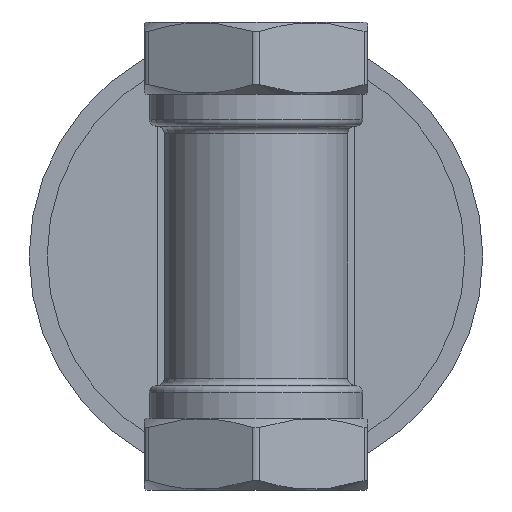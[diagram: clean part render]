
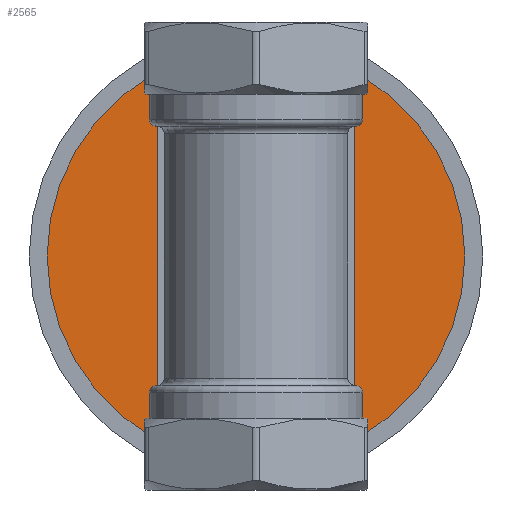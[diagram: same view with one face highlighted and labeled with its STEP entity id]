
A CAD part, front view. The second image highlights one B-rep face of the part: STEP entity #2565.
In plain terms, the highlighted planar face has unit normal (0, -1, 0).
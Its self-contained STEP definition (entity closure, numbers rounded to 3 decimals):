
#2565=ADVANCED_FACE('',(#14940,#14942),#14944,.F.);
#14940=FACE_BOUND('',#14941,.T.);
#14941=EDGE_LOOP('',(#19259));
#14942=FACE_BOUND('',#14943,.T.);
#14943=EDGE_LOOP('',(#19260,#19261,#19262,#19263,#19264,#19265,#19266,#19267,#19268,
#19269,#19270,#19271));
#14944=PLANE('',#14945);
#14945=AXIS2_PLACEMENT_3D('',#14946,#14947,#14948);
#14946=CARTESIAN_POINT('',(0.,33.9,0.));
#14947=DIRECTION('',(0.,1.,0.));
#14948=DIRECTION('',(0.,0.,1.));
#19259=ORIENTED_EDGE('',*,*,#22707,.F.);
#19260=ORIENTED_EDGE('',*,*,#22708,.T.);
#19261=ORIENTED_EDGE('',*,*,#22709,.T.);
#19262=ORIENTED_EDGE('',*,*,#22710,.T.);
#19263=ORIENTED_EDGE('',*,*,#22711,.T.);
#19264=ORIENTED_EDGE('',*,*,#22712,.T.);
#19265=ORIENTED_EDGE('',*,*,#22713,.T.);
#19266=ORIENTED_EDGE('',*,*,#22714,.T.);
#19267=ORIENTED_EDGE('',*,*,#22715,.T.);
#19268=ORIENTED_EDGE('',*,*,#22716,.T.);
#19269=ORIENTED_EDGE('',*,*,#22717,.T.);
#19270=ORIENTED_EDGE('',*,*,#22718,.T.);
#19271=ORIENTED_EDGE('',*,*,#22719,.T.);
#22707=EDGE_CURVE('',#24922,#24922,#24923,.T.);
#22708=EDGE_CURVE('',#24924,#24925,#24926,.F.);
#22709=EDGE_CURVE('',#24925,#24927,#24928,.T.);
#22710=EDGE_CURVE('',#24927,#24929,#24930,.F.);
#22711=EDGE_CURVE('',#24929,#24931,#24932,.T.);
#22712=EDGE_CURVE('',#24931,#24933,#24934,.F.);
#22713=EDGE_CURVE('',#24933,#24935,#24936,.T.);
#22714=EDGE_CURVE('',#24935,#24937,#24938,.F.);
#22715=EDGE_CURVE('',#24937,#24939,#24940,.T.);
#22716=EDGE_CURVE('',#24939,#24941,#24942,.F.);
#22717=EDGE_CURVE('',#24941,#24943,#24944,.T.);
#22718=EDGE_CURVE('',#24943,#24945,#24946,.F.);
#22719=EDGE_CURVE('',#24945,#24924,#24947,.T.);
#24922=VERTEX_POINT('',#34730);
#24923=CIRCLE('',#34731,29.);
#24924=VERTEX_POINT('',#34735);
#24925=VERTEX_POINT('',#34736);
#24926=LINE('',#34737,#34738);
#24927=VERTEX_POINT('',#34740);
#24928=CIRCLE('',#34741,1.);
#24929=VERTEX_POINT('',#34745);
#24930=LINE('',#34746,#34747);
#24931=VERTEX_POINT('',#34749);
#24932=CIRCLE('',#34750,1.);
#24933=VERTEX_POINT('',#34754);
#24934=LINE('',#34755,#34756);
#24935=VERTEX_POINT('',#34758);
#24936=CIRCLE('',#34759,1.);
#24937=VERTEX_POINT('',#34763);
#24938=LINE('',#34764,#34765);
#24939=VERTEX_POINT('',#34767);
#24940=CIRCLE('',#34768,1.);
#24941=VERTEX_POINT('',#34772);
#24942=LINE('',#34773,#34774);
#24943=VERTEX_POINT('',#34776);
#24944=CIRCLE('',#34777,1.);
#24945=VERTEX_POINT('',#34781);
#24946=LINE('',#34782,#34783);
#24947=CIRCLE('',#34785,1.);
#34730=CARTESIAN_POINT('',(29.,33.9,0.));
#34731=AXIS2_PLACEMENT_3D('',#34732,#34733,#34734);
#34732=CARTESIAN_POINT('',(0.,33.9,0.));
#34733=DIRECTION('',(0.,1.,0.));
#34734=DIRECTION('',(1.,0.,0.));
#34735=CARTESIAN_POINT('',(0.5,33.9,11.211));
#34736=CARTESIAN_POINT('',(9.459,33.9,6.039));
#34737=CARTESIAN_POINT('',(9.459,33.9,6.039));
#34738=VECTOR('',#34739,1.);
#34739=DIRECTION('',(-0.866,0.,0.5));
#34740=CARTESIAN_POINT('',(9.959,33.9,5.173));
#34741=AXIS2_PLACEMENT_3D('',#34742,#34743,#34744);
#34742=CARTESIAN_POINT('',(8.959,33.9,5.173));
#34743=DIRECTION('',(0.,1.,0.));
#34744=DIRECTION('',(0.5,0.,0.866));
#34745=CARTESIAN_POINT('',(9.959,33.9,-5.173));
#34746=CARTESIAN_POINT('',(9.959,33.9,-5.173));
#34747=VECTOR('',#34748,1.);
#34748=DIRECTION('',(0.,0.,1.));
#34749=CARTESIAN_POINT('',(9.459,33.9,-6.039));
#34750=AXIS2_PLACEMENT_3D('',#34751,#34752,#34753);
#34751=CARTESIAN_POINT('',(8.959,33.9,-5.173));
#34752=DIRECTION('',(0.,1.,0.));
#34753=DIRECTION('',(1.,0.,0.));
#34754=CARTESIAN_POINT('',(0.5,33.9,-11.211));
#34755=CARTESIAN_POINT('',(0.5,33.9,-11.211));
#34756=VECTOR('',#34757,1.);
#34757=DIRECTION('',(0.866,0.,0.5));
#34758=CARTESIAN_POINT('',(-0.5,33.9,-11.211));
#34759=AXIS2_PLACEMENT_3D('',#34760,#34761,#34762);
#34760=CARTESIAN_POINT('',(0.,33.9,-10.345));
#34761=DIRECTION('',(0.,1.,0.));
#34762=DIRECTION('',(0.5,0.,-0.866));
#34763=CARTESIAN_POINT('',(-9.459,33.9,-6.039));
#34764=CARTESIAN_POINT('',(-9.459,33.9,-6.039));
#34765=VECTOR('',#34766,1.);
#34766=DIRECTION('',(0.866,0.,-0.5));
#34767=CARTESIAN_POINT('',(-9.959,33.9,-5.173));
#34768=AXIS2_PLACEMENT_3D('',#34769,#34770,#34771);
#34769=CARTESIAN_POINT('',(-8.959,33.9,-5.173));
#34770=DIRECTION('',(0.,1.,0.));
#34771=DIRECTION('',(-0.5,0.,-0.866));
#34772=CARTESIAN_POINT('',(-9.959,33.9,5.173));
#34773=CARTESIAN_POINT('',(-9.959,33.9,5.173));
#34774=VECTOR('',#34775,1.);
#34775=DIRECTION('',(0.,0.,-1.));
#34776=CARTESIAN_POINT('',(-9.459,33.9,6.039));
#34777=AXIS2_PLACEMENT_3D('',#34778,#34779,#34780);
#34778=CARTESIAN_POINT('',(-8.959,33.9,5.173));
#34779=DIRECTION('',(0.,1.,0.));
#34780=DIRECTION('',(-1.,0.,0.));
#34781=CARTESIAN_POINT('',(-0.5,33.9,11.211));
#34782=CARTESIAN_POINT('',(-0.5,33.9,11.211));
#34783=VECTOR('',#34784,1.);
#34784=DIRECTION('',(-0.866,0.,-0.5));
#34785=AXIS2_PLACEMENT_3D('',#34786,#34787,#34788);
#34786=CARTESIAN_POINT('',(0.,33.9,10.345));
#34787=DIRECTION('',(0.,1.,0.));
#34788=DIRECTION('',(-0.5,0.,0.866));
